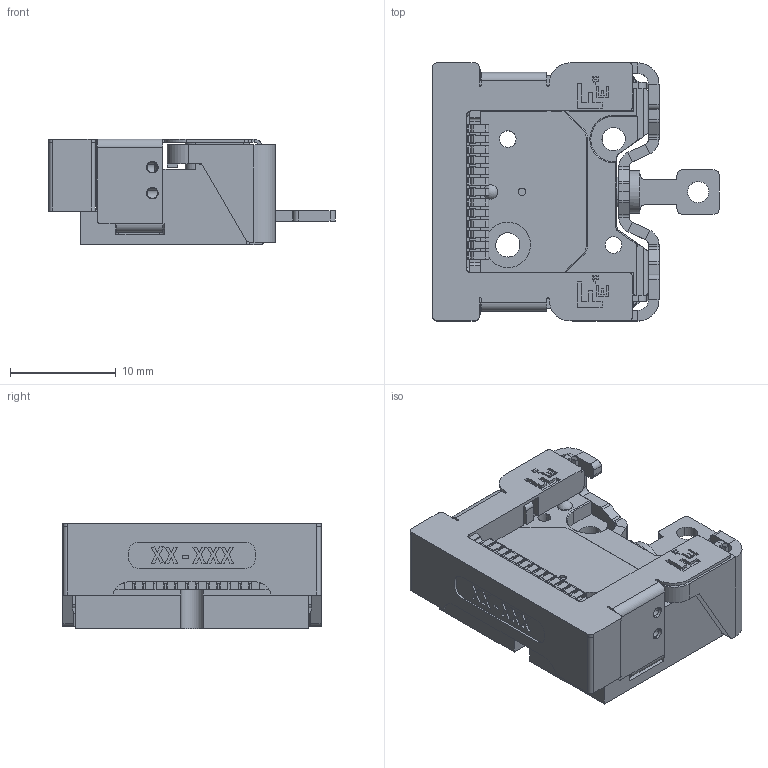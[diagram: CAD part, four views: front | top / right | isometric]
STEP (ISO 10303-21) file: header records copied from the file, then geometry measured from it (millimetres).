
FILE_DESCRIPTION(('Confidential','CAx-IF Rec.Pracs.--- Model Styling and Organization---1.2---2011-12-15','CAx-IF Rec.Pracs.--- Geometric and Assembly Validation Properties ---3.1---2011-10-19'),'2;1');
FILE_NAME('W:\KONSTRUKTION\PRODUCTS\REC\RECOM\RECOMCR\RECOMCREC13\RECOMCREC13V2\RECOMCREC13V2_Rev_E.stp','2026-08-11T13:21:50+00:00',('none'),('Ferrovac AG'),'CATIA Version 5 Release 21 SP 6 (IN-10)','CATIA V5 STEP AP214 Edition 3','PROPERTY OF FERROVAC AG');
FILE_SCHEMA(('AUTOMOTIVE_DESIGN { 1 0 10303 214 3 1 1 1 }'));
Products named in the file (1): RECOMCREC13V2_Rev_E
Bounding box: 27.09 x 24.4 x 10 mm (x, y, z)
Volume: 2837.8 mm3; surface area: 4338.6 mm2
Topology: 1 solids, 26 shells, 2717 faces, 7122 edges, 4304 vertices
Faces by surface type: plane 1643, cylinder 774, cone 176, torus 66, bspline 44, sphere 14
Entity records: 82059 total; most frequent: CARTESIAN_POINT 18650, ORIENTED_EDGE 14204, DIRECTION 9774, EDGE_CURVE 7102, VECTOR 4591, LINE 4591, VERTEX_POINT 4304, AXIS2_PLACEMENT_3D 3545
